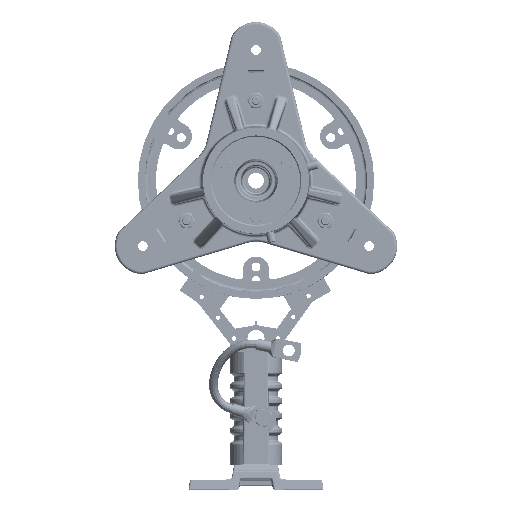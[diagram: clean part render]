
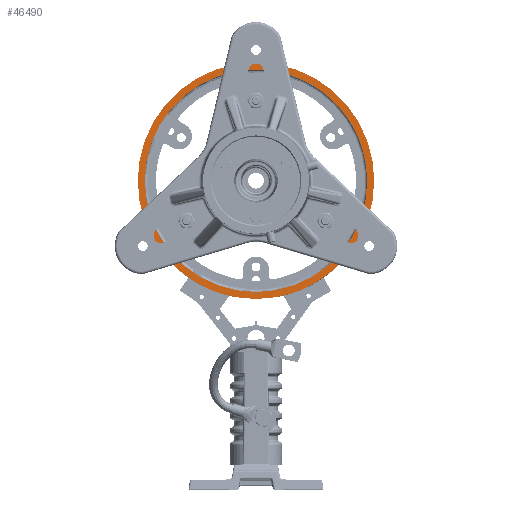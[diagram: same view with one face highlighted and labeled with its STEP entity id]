
A CAD part, front view. The second image highlights one B-rep face of the part: STEP entity #46490.
In plain terms, the highlighted planar face has unit normal (0, -1, 0).
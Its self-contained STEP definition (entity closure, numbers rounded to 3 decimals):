
#6311=PLANE('',#50959);
#8165=FACE_BOUND('',#14014,.T.);
#10041=FACE_OUTER_BOUND('',#14013,.T.);
#14013=EDGE_LOOP('',(#33426));
#14014=EDGE_LOOP('',(#33427));
#17831=CIRCLE('',#50951,135.);
#17838=CIRCLE('',#50960,127.);
#21132=VERTEX_POINT('',#76006);
#21143=VERTEX_POINT('',#76030);
#25669=EDGE_CURVE('',#21132,#21132,#17831,.T.);
#25680=EDGE_CURVE('',#21143,#21143,#17838,.T.);
#33426=ORIENTED_EDGE('',*,*,#25669,.F.);
#33427=ORIENTED_EDGE('',*,*,#25680,.F.);
#46490=ADVANCED_FACE('',(#10041,#8165),#6311,.F.);
#50951=AXIS2_PLACEMENT_3D('',#76007,#60284,#60285);
#50959=AXIS2_PLACEMENT_3D('',#76029,#60304,#60305);
#50960=AXIS2_PLACEMENT_3D('',#76031,#60306,#60307);
#60284=DIRECTION('center_axis',(0.,1.,0.));
#60285=DIRECTION('ref_axis',(-0.866,0.,0.5));
#60304=DIRECTION('center_axis',(0.,1.,0.));
#60305=DIRECTION('ref_axis',(0.866,0.,-0.5));
#60306=DIRECTION('center_axis',(0.,-1.,0.));
#60307=DIRECTION('ref_axis',(-0.866,0.,0.5));
#76006=CARTESIAN_POINT('',(-54.389,89.154,564.064));
#76007=CARTESIAN_POINT('Origin',(62.524,89.154,496.564));
#76029=CARTESIAN_POINT('Origin',(62.524,89.154,496.564));
#76030=CARTESIAN_POINT('',(-47.461,89.154,560.064));
#76031=CARTESIAN_POINT('Origin',(62.524,89.154,496.564));
